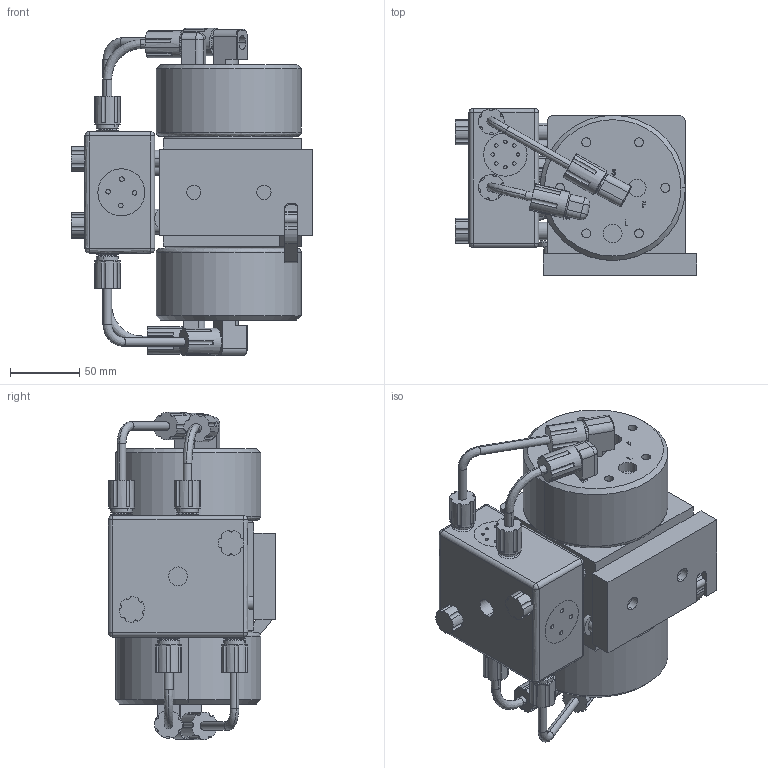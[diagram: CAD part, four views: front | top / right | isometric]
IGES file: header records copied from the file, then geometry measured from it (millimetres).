
Start section: SolidWorks IGES file using analytic representation for surfaces
Global section: file name: S:\Product Visuals\FILES FOR PUBLICATION\SOLID MODELS FOR PUBLICATION\psa030\psa030-t-fitting.IGS; native system: SolidWorks 2012; preprocessor: SolidWorks 2012; author: rachel.dressel; date: 121126.105757; units: inch
Bounding box: 174.52 x 120.98 x 236.81 mm (x, y, z)
Volume: 115681.3 mm3; surface area: 204857.6 mm2
Topology: 10 solids, 13 shells, 1090 faces, 2758 edges, 1799 vertices
Faces by surface type: revolution 527, plane 480, bspline 83
